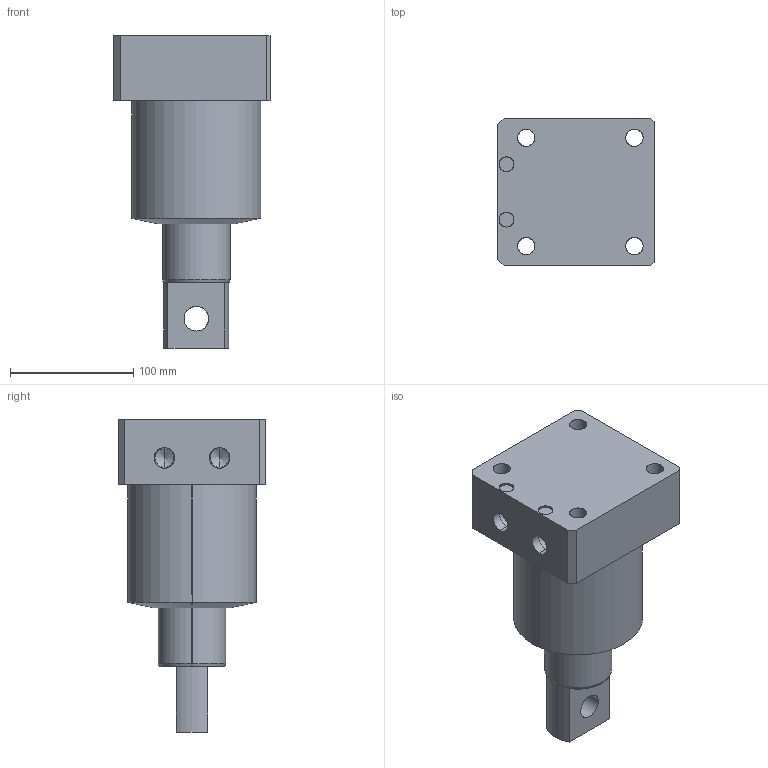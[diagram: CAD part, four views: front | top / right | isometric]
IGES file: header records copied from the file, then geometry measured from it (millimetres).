
Start section: SolidWorks IGES file using analytic representation for surfaces
Global section: file name: E:\ALL SSVT IGS MODEL\ALL-SWING-IGS\SWING-105\SB03-1051-RP-BM-PTYPE.IGS; native system: SolidWorks 2019; preprocessor: SolidWorks 2019; author: SSVT; date: 210823.143829; units: millimetre
Bounding box: 127 x 120 x 254 mm (x, y, z)
Surface area: 151293.5 mm2 (no closed solid volume)
Topology: 0 solids, 0 shells, 58 faces, 1144 edges, 1140 vertices
Faces by surface type: revolution 39, bspline 19
